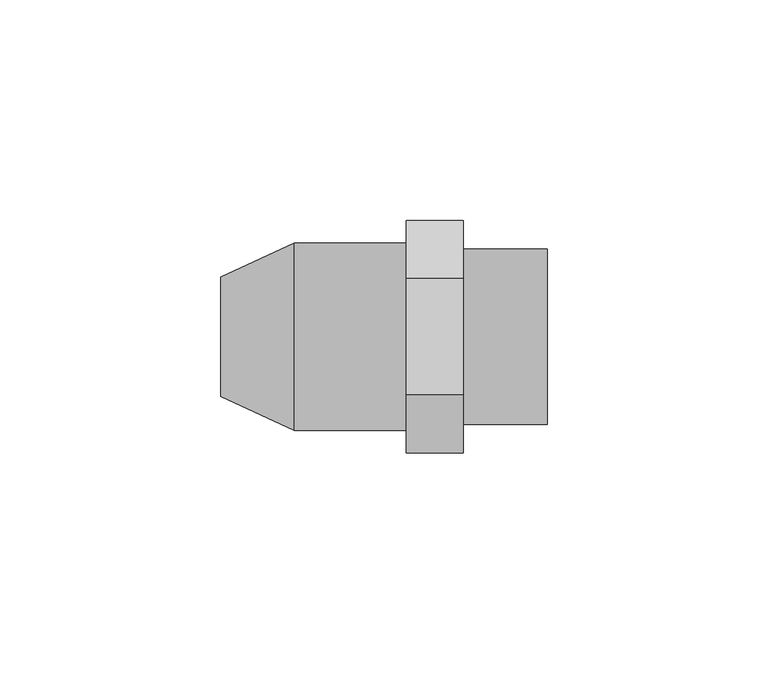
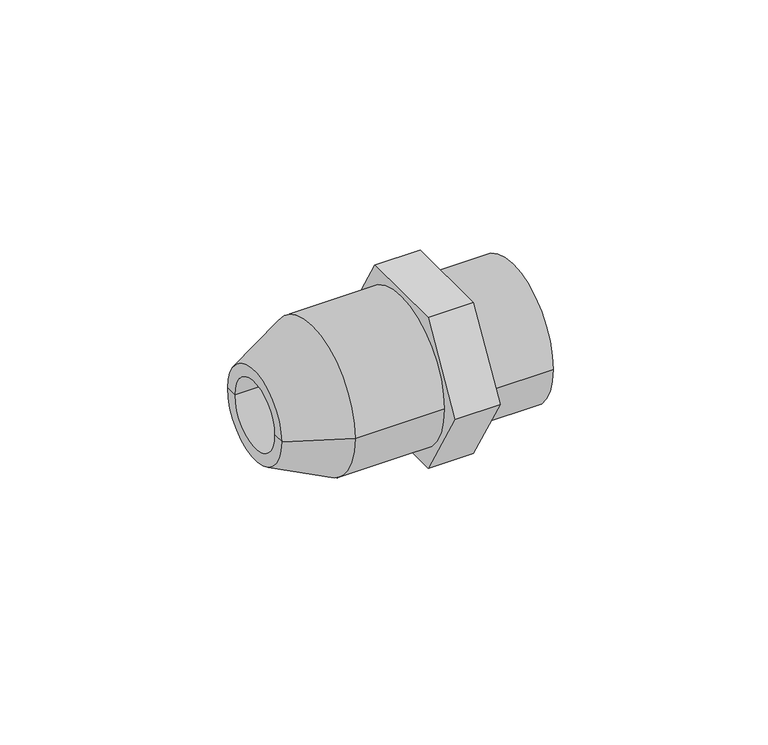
"""IFC4 building model written with IfcOpenShell, lengths in millimetres: pipe fitting geometry."""

from ifc_helpers import new_model, si_unit, point, frame, origin, origin_2d, place, context, project, spatial, polyline, circle_curve, trimmed, segment, composite_curve, outline, extrude, source, transform, mapped, element, save
from ifc_brep_helpers import plane_surface, cylinder_surface, revolved_surface, advanced_brep


def pipe_fitting_7dc3ead4(model_context):
    return source(origin(), model_context, "Body", "SolidModel", [
        advanced_brep(
        [(2.5, -21.25, 0.0), (2.5, 21.25, 0.0), (2.5, 0.0, 0.0), (-22.8800714, -21.25, 0.0), (-22.8800714, 21.25, 0.0), (-39.5, -13.5, 0.0), (-39.5, 13.5, 0.0), (-39.5, -10.0, 0.0), (-39.5, 10.0, 0.0), (-10.5, -10.0, 0.0), (-10.5, 10.0, 0.0), (-10.5, 0.0, 0.0)],
        [
            (0, 1, circle_curve(frame((2.5, 0.0, 0.0), z_axis=(1.0, 0.0, 0.0), x_axis=(0.0, 1.0, 0.0)), 21.25)),
            (1, 2),
            (2, 0),
            (1, 0, circle_curve(frame((2.5, 0.0, 0.0), z_axis=(1.0, 0.0, 0.0), x_axis=(0.0, 1.0, 0.0)), 21.25)),
            (3, 4, circle_curve(frame((-22.8800714, 0.0, 0.0), z_axis=(1.0, 0.0, 0.0), x_axis=(0.0, 1.0, 0.0)), 21.25)),
            (4, 1),
            (0, 3),
            (4, 3, circle_curve(frame((-22.8800714, 0.0, 0.0), z_axis=(1.0, 0.0, 0.0), x_axis=(0.0, 1.0, 0.0)), 21.25)),
            (5, 6, circle_curve(frame((-39.5, 0.0, 0.0), z_axis=(1.0, 0.0, 0.0), x_axis=(0.0, 1.0, 0.0)), 13.5)),
            (6, 4),
            (3, 5),
            (6, 5, circle_curve(frame((-39.5, 0.0, 0.0), z_axis=(1.0, 0.0, 0.0), x_axis=(0.0, 1.0, 0.0)), 13.5)),
            (7, 8, circle_curve(frame((-39.5, 0.0, 0.0), z_axis=(1.0, 0.0, 0.0), x_axis=(0.0, 1.0, 0.0)), 10.0)),
            (8, 6),
            (5, 7),
            (8, 7, circle_curve(frame((-39.5, 0.0, 0.0), z_axis=(1.0, 0.0, 0.0), x_axis=(0.0, 1.0, 0.0)), 10.0)),
            (9, 10, circle_curve(frame((-10.5, 0.0, 0.0), z_axis=(1.0, 0.0, 0.0), x_axis=(0.0, 1.0, 0.0)), 10.0)),
            (10, 8),
            (7, 9),
            (10, 9, circle_curve(frame((-10.5, 0.0, 0.0), z_axis=(1.0, 0.0, 0.0), x_axis=(0.0, 1.0, 0.0)), 10.0)),
            (11, 10),
            (9, 11),
        ],
        [
            plane_surface(frame((2.5, 0.0, 0.0), z_axis=(1.0, 0.0, 0.0), x_axis=(0.0, 1.0, 0.0))),
            cylinder_surface(frame((-49.5, 0.0, 0.0), z_axis=(-1.0, 0.0, 0.0), x_axis=(0.0, 1.0, 0.0)), 21.25),
            revolved_surface(polyline([(-22.8800714, 21.25, 0.0), (-39.5, 13.5, 0.0)]), (-49.5, 0.0, 0.0), (-1.0, 0.0, 0.0)),
            plane_surface(frame((-39.5, 0.0, 0.0), z_axis=(-1.0, 0.0, 0.0), x_axis=(0.0, 1.0, 0.0))),
            revolved_surface(polyline([(-39.5, 10.0, 0.0), (-10.5, 10.0, 0.0)]), (-49.5, 0.0, 0.0), (-1.0, 0.0, 0.0)),
            plane_surface(frame((-10.5, 0.0, 0.0), z_axis=(-1.0, 0.0, 0.0), x_axis=(0.0, 1.0, 0.0))),
        ],
        [
            (0, [[1, 2, 3]]),
            (0, [[4, -3, -2]]),
            (1, [[5, 6, -1, 7]]),
            (1, [[8, -7, -4, -6]]),
            (2, [[9, 10, -5, 11]]),
            (2, [[12, -11, -8, -10]]),
            (3, [[13, 14, -9, 15]]),
            (3, [[16, -15, -12, -14]]),
            (4, [[17, 18, -13, 19]]),
            (4, [[20, -19, -16, -18]]),
            (5, [[21, -17, 22]]),
            (5, [[-22, -20, -21]]),
        ],
    ),
        extrude(outline(composite_curve([segment(trimmed(circle_curve(origin_2d(), 19.85), [point((-19.85, 0.0))], [point((19.85, 0.0))], False, "CARTESIAN"), True, "CONTINUOUS"), segment(trimmed(circle_curve(origin_2d(), 19.85), [point((19.85, 0.0))], [point((-19.85, 0.0))], False, "CARTESIAN"), True, "CONTINUOUS")], self_intersect=False), holes=[composite_curve([segment(trimmed(circle_curve(origin_2d(), 16.85), [point((-16.85, 0.0))], [point((16.85, 0.0))], True, "CARTESIAN"), True, "CONTINUOUS"), segment(trimmed(circle_curve(origin_2d(), 16.85), [point((16.85, 0.0))], [point((-16.85, 0.0))], True, "CARTESIAN"), True, "CONTINUOUS")], self_intersect=False)]), frame((15.5, 0.0, 0.0), z_axis=(1.0, 0.0, 0.0), x_axis=(0.0, 1.0, 0.0)), (0.0, 0.0, 1.0), 19.0),
        extrude(outline(polyline([(-26.3589265, 0.0), (-13.1794633, 22.8275), (13.1794633, 22.8275), (26.3589265, 0.0), (13.1794633, -22.8275), (-13.1794633, -22.8275), (-26.3589265, 0.0)])), frame((2.5, 0.0, 0.0), z_axis=(1.0, 0.0, 0.0), x_axis=(0.0, 1.0, 0.0)), (0.0, 0.0, 1.0), 13.0),
    ])


if __name__ == "__main__":
    model = new_model("IFC4")
    model_context = context("Model", 3, world=origin())
    ifc_project = project(units=[si_unit("LENGTHUNIT", "METRE", prefix="MILLI")], contexts=[model_context])
    site = spatial("IfcSite", under=ifc_project)
    building = spatial("IfcBuilding", under=site)
    placement = place(None, origin())
    pipe_fitting_shape = pipe_fitting_7dc3ead4(model_context)
    element("IfcPipeFitting", 1, ObjectType="NLRS_50_PIF_UN_PushFit overgang met binnendraad (messing)_geb : DN12-20-Rp1\" / d16-25-Rp1\"", at=placement, inside=building, context=model_context, shape_type="MappedRepresentation", body=[
        mapped(pipe_fitting_shape, transform((0.0, 0.0, 0.0), x_axis=(1.0, 0.0, 0.0), y_axis=(0.0, 1.0, 0.0), z_axis=(0.0, 0.0, 1.0))),
    ])
    save(model, "model.ifc")
